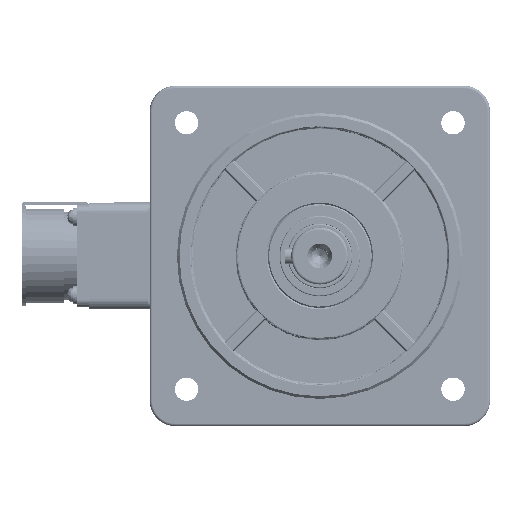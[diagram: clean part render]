
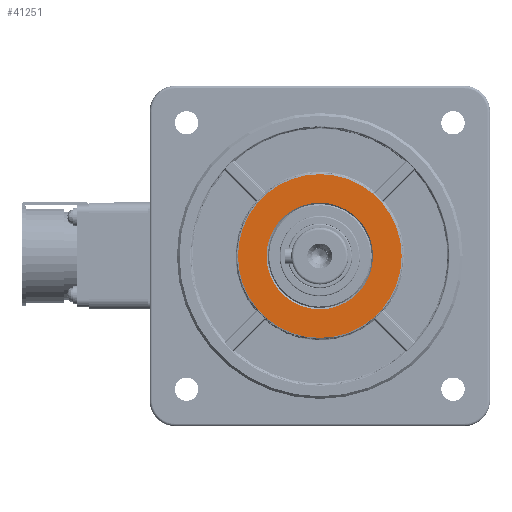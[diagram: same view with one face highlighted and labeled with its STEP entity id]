
A CAD part, left-side view. The second image highlights one B-rep face of the part: STEP entity #41251.
In plain terms, the highlighted planar face has unit normal (-1, 0, 0) as drawn and (1, 0, 0) by its records, which use the part's own axes.
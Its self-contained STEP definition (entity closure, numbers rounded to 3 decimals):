
#1568 = EDGE_CURVE ( 'NONE', #85879, #101064, #30156, .T. ) ;
#1613 = CARTESIAN_POINT ( 'NONE',  ( 30., 0., 0. ) ) ;
#1661 = EDGE_CURVE ( 'NONE', #88030, #10260, #67037, .T. ) ;
#4743 = DIRECTION ( 'NONE',  ( 0., 0., 1. ) ) ;
#10260 = VERTEX_POINT ( 'NONE', #47482 ) ;
#11784 = CIRCLE ( 'NONE', #27312, 20.5 ) ;
#13058 = EDGE_LOOP ( 'NONE', ( #81971, #53890 ) ) ;
#17261 = DIRECTION ( 'NONE',  ( 0., 0., 1. ) ) ;
#20277 = CARTESIAN_POINT ( 'NONE',  ( 30., 0., 31.5 ) ) ;
#24731 = DIRECTION ( 'NONE',  ( 0., 0., 1. ) ) ;
#27312 = AXIS2_PLACEMENT_3D ( 'NONE', #1613, #38654, #75710 ) ;
#30108 = CARTESIAN_POINT ( 'NONE',  ( 30., 20., 0. ) ) ;
#30156 = CIRCLE ( 'NONE', #82545, 31.5 ) ;
#32294 = CIRCLE ( 'NONE', #100198, 31.5 ) ;
#35493 = CARTESIAN_POINT ( 'NONE',  ( 30., 0., 0. ) ) ;
#38654 = DIRECTION ( 'NONE',  ( -1., 0., 0. ) ) ;
#39228 = FACE_BOUND ( 'NONE', #13058, .T. ) ;
#41251 = ADVANCED_FACE ( 'NONE', ( #39228, #76292 ), #113341, .F. ) ;
#41474 = EDGE_LOOP ( 'NONE', ( #74939, #61959 ) ) ;
#47482 = CARTESIAN_POINT ( 'NONE',  ( 30., 0., -20.5 ) ) ;
#50888 = CARTESIAN_POINT ( 'NONE',  ( 30., 0., 0. ) ) ;
#53890 = ORIENTED_EDGE ( 'NONE', *, *, #1661, .T. ) ;
#61959 = ORIENTED_EDGE ( 'NONE', *, *, #1568, .T. ) ;
#67037 = CIRCLE ( 'NONE', #119418, 20.5 ) ;
#67176 = DIRECTION ( 'NONE',  ( -1., 0., 0. ) ) ;
#69734 = EDGE_CURVE ( 'NONE', #101064, #85879, #32294, .T. ) ;
#70912 = CARTESIAN_POINT ( 'NONE',  ( 30., 0., 0. ) ) ;
#74939 = ORIENTED_EDGE ( 'NONE', *, *, #69734, .T. ) ;
#75710 = DIRECTION ( 'NONE',  ( 0., 0., 1. ) ) ;
#76292 = FACE_OUTER_BOUND ( 'NONE', #41474, .T. ) ;
#81971 = ORIENTED_EDGE ( 'NONE', *, *, #97534, .T. ) ;
#82545 = AXIS2_PLACEMENT_3D ( 'NONE', #50888, #87933, #4743 ) ;
#85879 = VERTEX_POINT ( 'NONE', #118474 ) ;
#87933 = DIRECTION ( 'NONE',  ( 1., 0., 0. ) ) ;
#88030 = VERTEX_POINT ( 'NONE', #106603 ) ;
#97534 = EDGE_CURVE ( 'NONE', #10260, #88030, #11784, .T. ) ;
#100198 = AXIS2_PLACEMENT_3D ( 'NONE', #35493, #100472, #17261 ) ;
#100472 = DIRECTION ( 'NONE',  ( 1., 0., 0. ) ) ;
#101064 = VERTEX_POINT ( 'NONE', #20277 ) ;
#104209 = DIRECTION ( 'NONE',  ( 0., 0., 1. ) ) ;
#106603 = CARTESIAN_POINT ( 'NONE',  ( 30., 0., 20.5 ) ) ;
#107957 = DIRECTION ( 'NONE',  ( -1., 0., 0. ) ) ;
#113341 = PLANE ( 'NONE',  #115156 ) ;
#115156 = AXIS2_PLACEMENT_3D ( 'NONE', #30108, #67176, #104209 ) ;
#118474 = CARTESIAN_POINT ( 'NONE',  ( 30., 0., -31.5 ) ) ;
#119418 = AXIS2_PLACEMENT_3D ( 'NONE', #70912, #107957, #24731 ) ;
